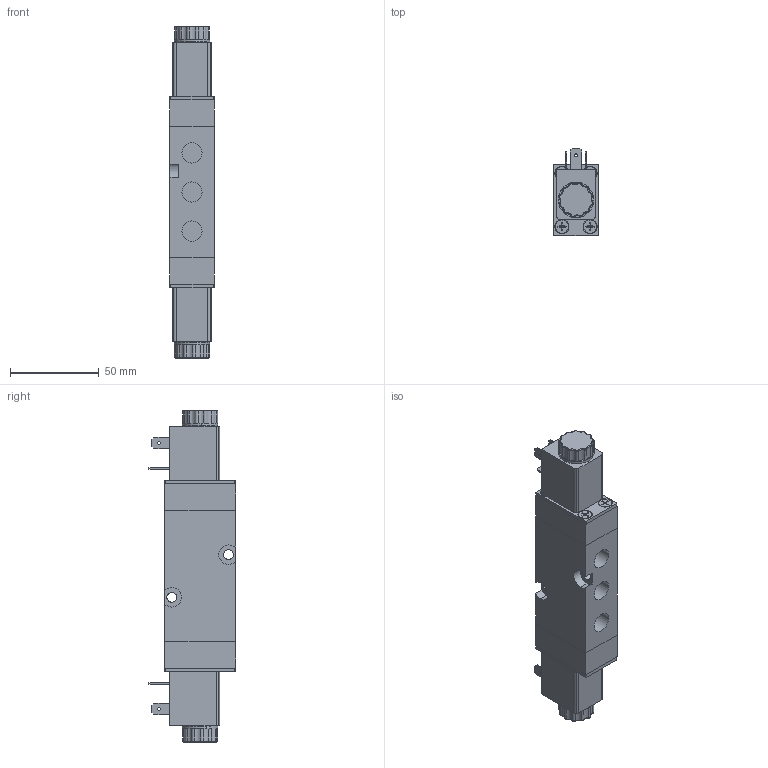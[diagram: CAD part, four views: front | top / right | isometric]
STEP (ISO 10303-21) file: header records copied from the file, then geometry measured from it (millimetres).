
FILE_DESCRIPTION (( 'STEP AP214' ), '1' );
FILE_NAME ('ICKN-55-520-HN-F42_Airtec.step', '2019-01-08T09:19:16', ( '' ), ( '' ), 'SwSTEP 2.0', 'SolidWorks 2010', '' );
FILE_SCHEMA (( 'AUTOMOTIVE_DESIGN' ));
Length unit declared in the file: millimetre
Products named in the file (3): Volumenkörper6; Volumenkörper1; ICKN-55-520-HN-F42_Airtec
Assembly tree (3 placements, depth 2):
  ICKN-55-520-HN-F42_Airtec
    Volumenkörper6
    Volumenkörper1  x2
Bounding box: 25 x 49.2 x 187.2 mm (x, y, z)
Volume: 143946.3 mm3; surface area: 35437.3 mm2
Topology: 3 solids, 3 shells, 871 faces, 2238 edges, 1423 vertices
Faces by surface type: plane 327, cylinder 224, cone 174, torus 114, bspline 32
Entity records: 34266 total; most frequent: CARTESIAN_POINT 8236, DIRECTION 4236, ORIENTED_EDGE 4232, EDGE_CURVE 2116, AXIS2_PLACEMENT_3D 1669, VERTEX_POINT 1346, VECTOR 898, LINE 898
